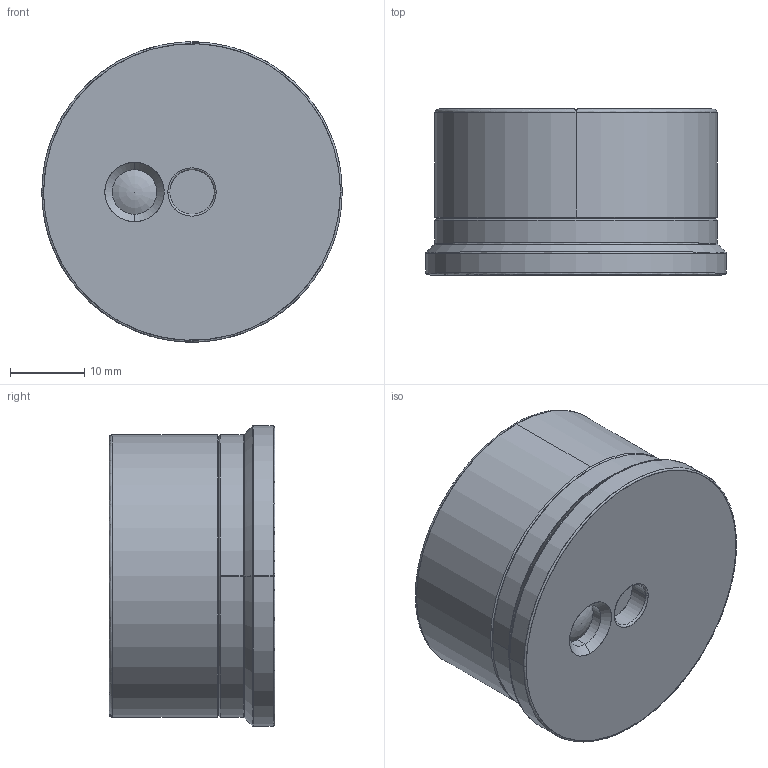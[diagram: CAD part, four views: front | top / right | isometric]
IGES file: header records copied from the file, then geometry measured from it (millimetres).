
Start section: SolidWorks IGES file using analytic representation for surfaces
Global section: file name: Z:\g2 CAD\EREZ PDM TMP\IGS tests\BC0500-OTX-A103 D TOP Half Pack.IGS; native system: SolidWorks 2015; preprocessor: SolidWorks 2015; author: meekGee; date: 160113.221126; units: millimetre
Bounding box: 40.5 x 22.37 x 40.5 mm (x, y, z)
Surface area: 11433.3 mm2 (no closed solid volume)
Topology: 0 solids, 0 shells, 143 faces, 2179 edges, 2167 vertices
Faces by surface type: revolution 78, bspline 65
